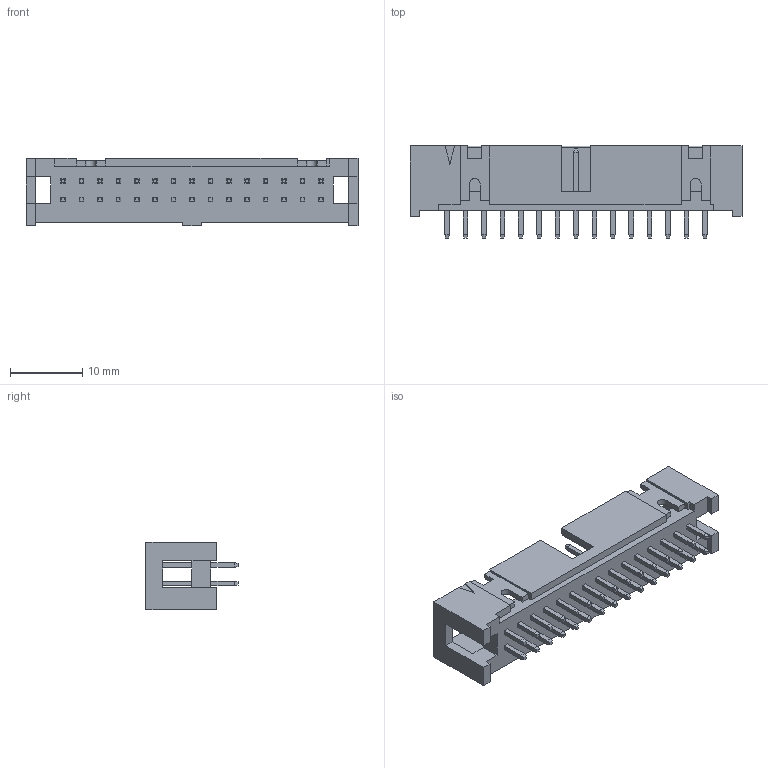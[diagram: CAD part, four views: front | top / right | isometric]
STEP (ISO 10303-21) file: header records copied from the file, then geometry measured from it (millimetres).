
FILE_DESCRIPTION (( 'STEP AP203' ), '1' );
FILE_NAME ('HC-JN254-2-15-Z-9.7-XX (潠籟2.54 邧齬 眻渀-HCTL).STEP', '2025-08-16T01:50:28', ( '' ), ( '' ), 'SwSTEP 2.0', 'SolidWorks 2025', '' );
FILE_SCHEMA (( 'CONFIG_CONTROL_DESIGN' ));
Length unit declared in the file: millimetre
Products named in the file (1): HC-JN254-2-15-Z-9.7-XX (简牛2.54 双排 直针-HCTL)
Bounding box: 45.8 x 12.7 x 9.3 mm (x, y, z)
Volume: 1750.9 mm3; surface area: 3100.3 mm2
Topology: 1 solids, 1 shells, 618 faces, 1444 edges, 880 vertices
Faces by surface type: plane 616, cylinder 2
Entity records: 17021 total; most frequent: CARTESIAN_POINT 2943, ORIENTED_EDGE 2888, DIRECTION 2686, EDGE_CURVE 1444, LINE 1440, VECTOR 1440, VERTEX_POINT 880, EDGE_LOOP 678
